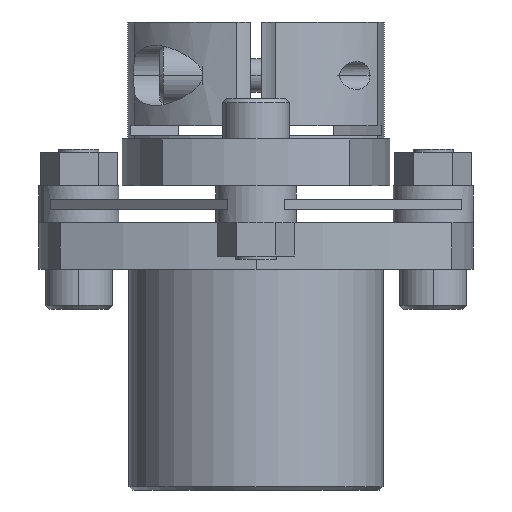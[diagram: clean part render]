
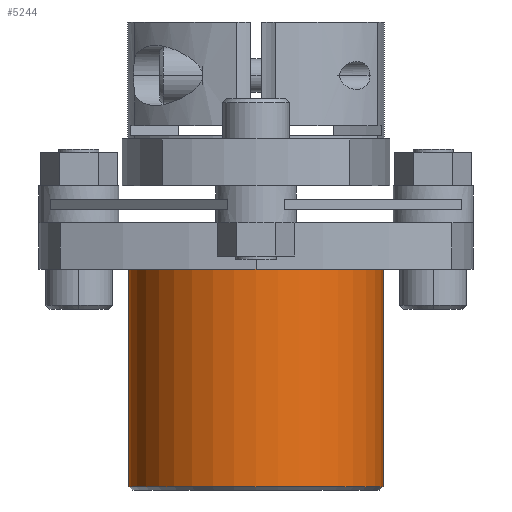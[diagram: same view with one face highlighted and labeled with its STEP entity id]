
A CAD part, front view. The second image highlights one B-rep face of the part: STEP entity #5244.
In plain terms, the highlighted cylindrical face has radius 19 mm (diameter 38 mm), a partial arc.
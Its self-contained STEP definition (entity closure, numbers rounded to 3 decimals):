
#962=CARTESIAN_POINT('',(19.,0.,-42.25));
#963=VERTEX_POINT('',#962);
#964=CARTESIAN_POINT('',(19.,0.,-9.75));
#965=VERTEX_POINT('',#964);
#966=CARTESIAN_POINT('',(19.,0.,-42.25));
#967=DIRECTION('',(0.0,0.0,1.0));
#968=VECTOR('',#967,32.5);
#969=LINE('',#966,#968);
#970=EDGE_CURVE('',#963,#965,#969,.T.);
#972=CARTESIAN_POINT('',(-19.,0.,-42.25));
#973=VERTEX_POINT('',#972);
#981=CARTESIAN_POINT('',(-19.,0.,-9.75));
#982=VERTEX_POINT('',#981);
#983=CARTESIAN_POINT('',(-19.,0.,-9.75));
#984=DIRECTION('',(0.0,0.0,-1.0));
#985=VECTOR('',#984,32.5);
#986=LINE('',#983,#985);
#987=EDGE_CURVE('',#982,#973,#986,.T.);
#1027=CARTESIAN_POINT('',(0.,0.0,-42.25));
#1028=DIRECTION('',(0.0,0.0,-1.0));
#1029=DIRECTION('',(-1.0,0.0,0.0));
#1030=AXIS2_PLACEMENT_3D('',#1027,#1028,#1029);
#1031=CIRCLE('',#1030,19.0);
#1032=EDGE_CURVE('',#963,#973,#1031,.T.);
#5227=CARTESIAN_POINT('',(0.,0.0,-22.75));
#5228=DIRECTION('',(0.0,0.0,1.0));
#5229=DIRECTION('',(1.0,0.0,0.0));
#5230=AXIS2_PLACEMENT_3D('',#5227,#5228,#5229);
#5231=CYLINDRICAL_SURFACE('',#5230,19.0);
#5232=ORIENTED_EDGE('',*,*,#970,.T.);
#5233=CARTESIAN_POINT('',(0.,0.0,-9.75));
#5234=DIRECTION('',(0.0,0.0,1.0));
#5235=DIRECTION('',(1.0,0.0,0.0));
#5236=AXIS2_PLACEMENT_3D('',#5233,#5234,#5235);
#5237=CIRCLE('',#5236,19.0);
#5238=EDGE_CURVE('',#982,#965,#5237,.T.);
#5239=ORIENTED_EDGE('',*,*,#5238,.F.);
#5240=ORIENTED_EDGE('',*,*,#987,.T.);
#5241=ORIENTED_EDGE('',*,*,#1032,.F.);
#5242=EDGE_LOOP('',(#5232,#5239,#5240,#5241));
#5243=FACE_OUTER_BOUND('',#5242,.T.);
#5244=ADVANCED_FACE('',(#5243),#5231,.T.);
